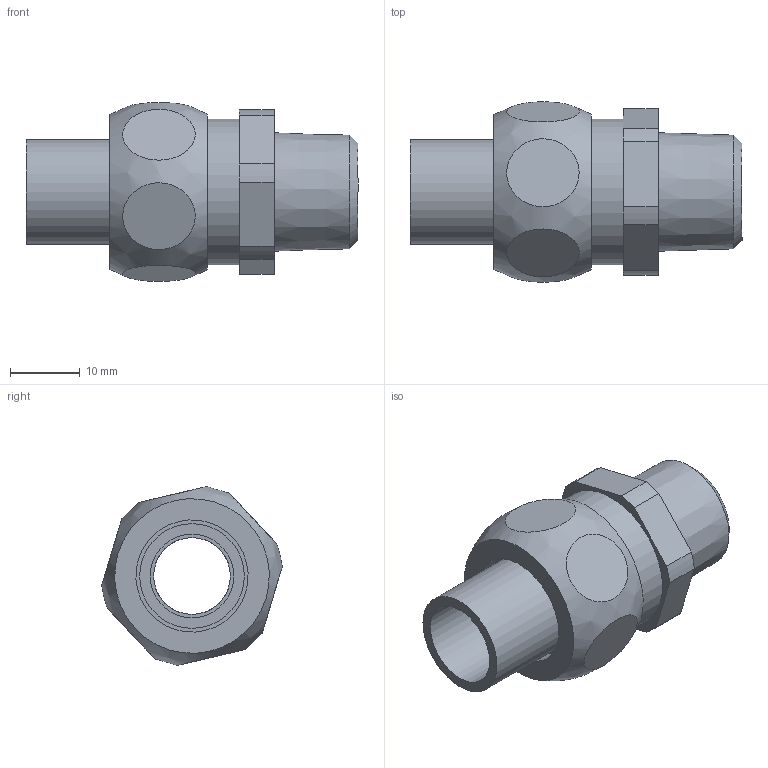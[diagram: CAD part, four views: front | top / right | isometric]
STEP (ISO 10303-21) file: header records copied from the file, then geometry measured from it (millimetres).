
FILE_DESCRIPTION(/* description */ (''),/* implementation_level */ '2;1');
FILE_NAME(/* name */ '\\lg50011\SANHA_LEGNICA\Engineering\Public\RYSUNKI\SANHA POLSKA\4343\Inventor\stp\143431238.stp',/* time_stamp */ '2021-10-06T07:35:40+02:00',/* author */ ('gomulka'),/* organization */ (''),/* preprocessor_version */ 'ST-DEVELOPER v18.1',/* originating_system */ 'Autodesk Inventor 2021',/* authorisation */ '');
FILE_SCHEMA (('AUTOMOTIVE_DESIGN { 1 0 10303 214 3 1 1 }'));
Length unit declared in the file: millimetre
Products named in the file (4): 143431238; 14381_12-12(1); 14386g_38-12(2); 14374B_12(0)
Assembly tree (3 placements, depth 2):
  143431238
    14381_12-12(1)
    14386g_38-12(2)
    14374B_12(0)
Bounding box: 47.61 x 25.86 x 25.65 mm (x, y, z)
Volume: 10221 mm3; surface area: 7565.6 mm2
Topology: 3 solids, 3 shells, 45 faces, 113 edges, 84 vertices
Faces by surface type: plane 23, cylinder 15, cone 5, bspline 2
Full cylindrical faces by diameter (mm): 11 x2, 12 x1, 15 x2, 16.1 x1, 18.3 x1, 18.63 x1, 20.955 x1
Entity records: 1917 total; most frequent: CARTESIAN_POINT 600, DIRECTION 270, ORIENTED_EDGE 226, AXIS2_PLACEMENT_3D 116, EDGE_CURVE 113, VERTEX_POINT 84, CIRCLE 66, EDGE_LOOP 61
